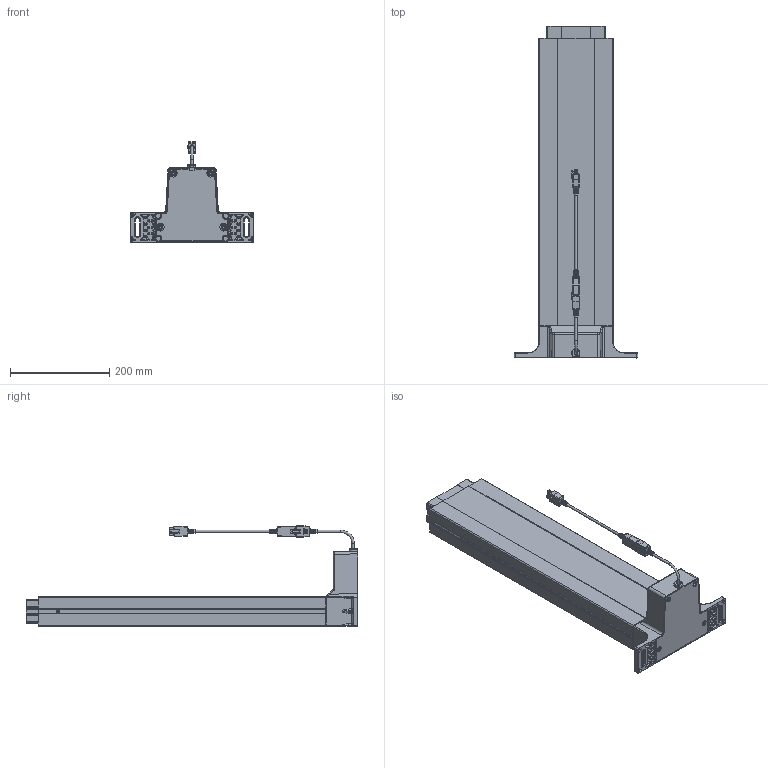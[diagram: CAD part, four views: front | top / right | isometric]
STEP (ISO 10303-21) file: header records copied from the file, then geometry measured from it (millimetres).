
FILE_DESCRIPTION(/* description */ ('Unknown'),/* implementation_level */ '2;1');
FILE_NAME(/* name */ '909.01004_01-eingefahren',/* time_stamp */ '2021-11-22T09:15:57+01:00',/* author */ ('Unknown'),/* organization */ ('Unknown'),/* preprocessor_version */ 'ST-DEVELOPER v18.1',/* originating_system */ 'Solid Edge',/* authorisation */ 'Unknown');
FILE_SCHEMA (('AUTOMOTIVE_DESIGN {1 0 10303 214 3 1 1}'));
Products named in the file (10): 909.01004; 126.00190; 119.00556; 124.00124; 128.00075; 119.00555; Kabel Molex; 142.00341; 142.00166; 124.00137
Assembly tree (17 placements, depth 2):
  909.01004
    126.00190
    119.00556
    124.00124
    128.00075
    119.00555
    Kabel Molex
    142.00341  x2
    142.00166  x8
    124.00137
Bounding box: 250.17 x 670 x 203.2 mm (x, y, z)
Volume: 2049801.4 mm3; surface area: 1188782.7 mm2
Topology: 17 solids, 17 shells, 6409 faces, 15623 edges, 9060 vertices
Faces by surface type: cylinder 2206, bspline 2067, plane 1622, torus 340, cone 116, sphere 58
Full cylindrical faces by diameter (mm): 1.95 x3, 2.6 x8, 3 x3, 3.242 x4, 4 x2, 4.7 x4, 5 x11, 7 x2, 8.5 x8, 14 x1, 30 x2
Entity records: 451387 total; most frequent: CARTESIAN_POINT 277856, ORIENTED_EDGE 29728, DIRECTION 24613, EDGE_CURVE 14864, AXIS2_PLACEMENT_3D 9415, VERTEX_POINT 8865, EDGE_LOOP 6605, FACE_BOUND 6605
